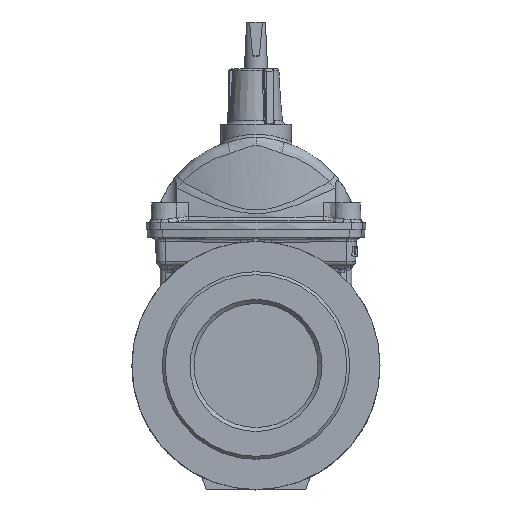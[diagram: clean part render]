
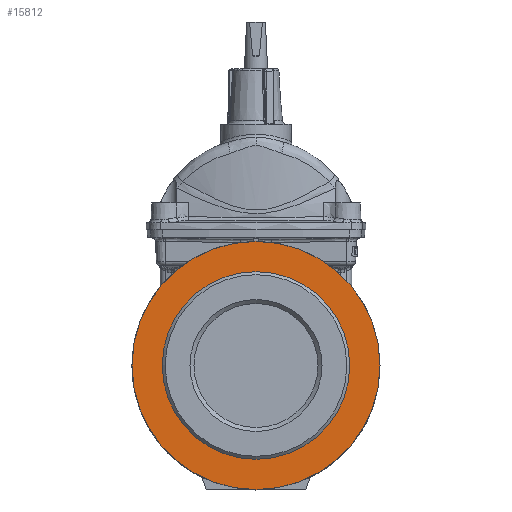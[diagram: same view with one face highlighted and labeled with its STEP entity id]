
A CAD part, top view. The second image highlights one B-rep face of the part: STEP entity #15812.
In plain terms, the highlighted planar face has unit normal (0, 0, 1).
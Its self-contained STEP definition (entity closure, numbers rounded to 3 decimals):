
#3233 = CIRCLE ( 'NONE', #27449, 94.5 ) ;
#4539 = AXIS2_PLACEMENT_3D ( 'NONE', #23998, #24042, #23995 ) ;
#10351 = FACE_BOUND ( 'NONE', #21417, .T. ) ;
#10352 = FACE_OUTER_BOUND ( 'NONE', #21420, .T. ) ;
#11380 = CARTESIAN_POINT ( 'NONE',  ( 0., 0., 124. ) ) ;
#11381 = DIRECTION ( 'NONE',  ( 0., 0., 1. ) ) ;
#11382 = DIRECTION ( 'NONE',  ( 1., 0., 0. ) ) ;
#12078 = CARTESIAN_POINT ( 'NONE',  ( 94.5, 0., 124. ) ) ;
#12082 = CARTESIAN_POINT ( 'NONE',  ( 125., 0., 124. ) ) ;
#15701 = ORIENTED_EDGE ( 'NONE', *, *, #24909, .T. ) ;
#15736 = ORIENTED_EDGE ( 'NONE', *, *, #24495, .F. ) ;
#15812 = ADVANCED_FACE ( 'NONE', ( #10352, #10351 ), #23997, .T. ) ;
#17826 = CARTESIAN_POINT ( 'NONE',  ( 0., 0., 124. ) ) ;
#17827 = DIRECTION ( 'NONE',  ( 0., 0., 1. ) ) ;
#17828 = DIRECTION ( 'NONE',  ( 1., 0., 0. ) ) ;
#20333 = CIRCLE ( 'NONE', #27377, 125. ) ;
#20434 = VERTEX_POINT ( 'NONE', #12078 ) ;
#20438 = VERTEX_POINT ( 'NONE', #12082 ) ;
#21417 = EDGE_LOOP ( 'NONE', ( #15736 ) ) ;
#21420 = EDGE_LOOP ( 'NONE', ( #15701 ) ) ;
#23995 = DIRECTION ( 'NONE',  ( 1., 0., 0. ) ) ;
#23997 = PLANE ( 'NONE',  #4539 ) ;
#23998 = CARTESIAN_POINT ( 'NONE',  ( 0., 94.5, 124. ) ) ;
#24042 = DIRECTION ( 'NONE',  ( 0., 0., 1. ) ) ;
#24495 = EDGE_CURVE ( 'NONE', #20434, #20434, #3233, .T. ) ;
#24909 = EDGE_CURVE ( 'NONE', #20438, #20438, #20333, .T. ) ;
#27377 = AXIS2_PLACEMENT_3D ( 'NONE', #11380, #11381, #11382 ) ;
#27449 = AXIS2_PLACEMENT_3D ( 'NONE', #17826, #17827, #17828 ) ;
